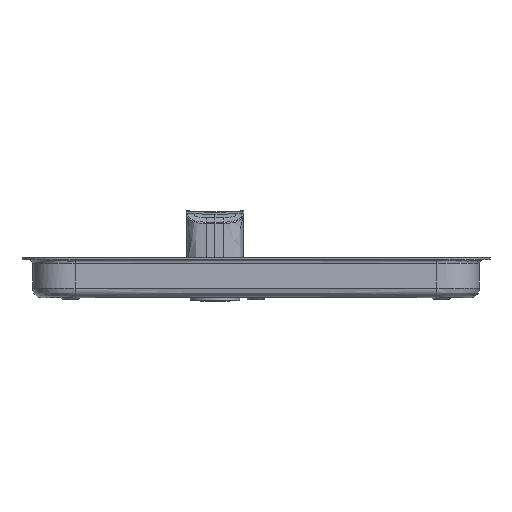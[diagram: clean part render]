
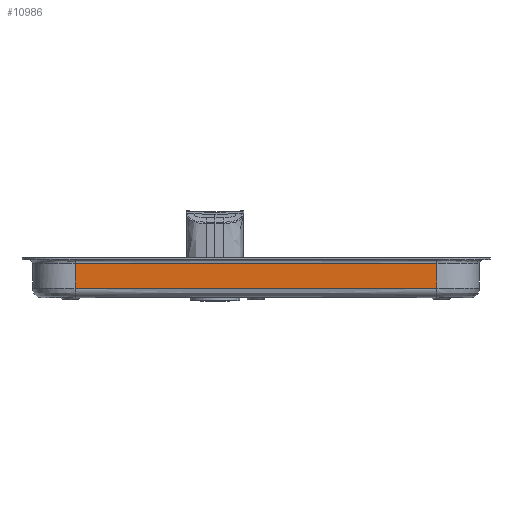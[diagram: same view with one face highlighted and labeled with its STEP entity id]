
A CAD part, left-side view. The second image highlights one B-rep face of the part: STEP entity #10986.
In plain terms, the highlighted free-form (B-spline) face has degree [2, 1] with [3, 2] control points.
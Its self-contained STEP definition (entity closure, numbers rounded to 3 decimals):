
#134=B_SPLINE_SURFACE_WITH_KNOTS('',2,1,((#18812,#18813),(#18814,#18815),
(#18816,#18817)),.UNSPECIFIED.,.F.,.F.,.F.,(3,3),(2,2),(-1.,0.),(0.,2.4),
 .UNSPECIFIED.);
#501=B_SPLINE_CURVE_WITH_KNOTS('',3,(#17790,#17791,#17792,#17793),
 .UNSPECIFIED.,.F.,.F.,(4,4),(0.,18.943),.UNSPECIFIED.);
#525=B_SPLINE_CURVE_WITH_KNOTS('',2,(#18820,#18821,#18822),
 .UNSPECIFIED.,.F.,.F.,(3,3),(0.,18.943),.UNSPECIFIED.);
#1209=LINE('',#18823,#2100);
#1210=LINE('',#18824,#2101);
#2100=VECTOR('',#12736,10.);
#2101=VECTOR('',#12737,10.);
#2996=FACE_OUTER_BOUND('',#3661,.T.);
#3661=EDGE_LOOP('',(#7956,#7957,#7958,#7959));
#4582=VERTEX_POINT('',#17752);
#4583=VERTEX_POINT('',#17789);
#4601=VERTEX_POINT('',#18818);
#4602=VERTEX_POINT('',#18819);
#5782=EDGE_CURVE('',#4583,#4582,#501,.T.);
#5823=EDGE_CURVE('',#4601,#4602,#525,.T.);
#5824=EDGE_CURVE('',#4602,#4583,#1209,.T.);
#5825=EDGE_CURVE('',#4582,#4601,#1210,.T.);
#7956=ORIENTED_EDGE('',*,*,#5823,.T.);
#7957=ORIENTED_EDGE('',*,*,#5824,.T.);
#7958=ORIENTED_EDGE('',*,*,#5782,.T.);
#7959=ORIENTED_EDGE('',*,*,#5825,.T.);
#10986=ADVANCED_FACE('',(#2996),#134,.T.);
#12736=DIRECTION('',(0.,0.,1.));
#12737=DIRECTION('',(0.,0.,-1.));
#17752=CARTESIAN_POINT('',(-107.579,96.985,7.985));
#17789=CARTESIAN_POINT('',(-107.579,-92.447,7.985));
#17790=CARTESIAN_POINT('Ctrl Pts',(-107.579,-92.447,7.985));
#17791=CARTESIAN_POINT('Ctrl Pts',(-107.579,-29.303,
7.985));
#17792=CARTESIAN_POINT('Ctrl Pts',(-107.579,33.841,7.985));
#17793=CARTESIAN_POINT('Ctrl Pts',(-107.579,96.985,7.985));
#18812=CARTESIAN_POINT('Ctrl Pts',(-107.579,-92.447,9.985));
#18813=CARTESIAN_POINT('Ctrl Pts',(-107.579,-92.447,-14.015));
#18814=CARTESIAN_POINT('Ctrl Pts',(-107.579,2.269,9.985));
#18815=CARTESIAN_POINT('Ctrl Pts',(-107.579,2.269,-14.015));
#18816=CARTESIAN_POINT('Ctrl Pts',(-107.579,96.985,9.985));
#18817=CARTESIAN_POINT('Ctrl Pts',(-107.579,96.985,-14.015));
#18818=CARTESIAN_POINT('',(-107.579,96.985,-5.015));
#18819=CARTESIAN_POINT('',(-107.579,-92.447,-5.015));
#18820=CARTESIAN_POINT('Ctrl Pts',(-107.579,96.985,-5.015));
#18821=CARTESIAN_POINT('Ctrl Pts',(-107.579,2.269,-5.015));
#18822=CARTESIAN_POINT('Ctrl Pts',(-107.579,-92.447,-5.015));
#18823=CARTESIAN_POINT('',(-107.579,-92.447,-5.015));
#18824=CARTESIAN_POINT('',(-107.579,96.985,7.985));
